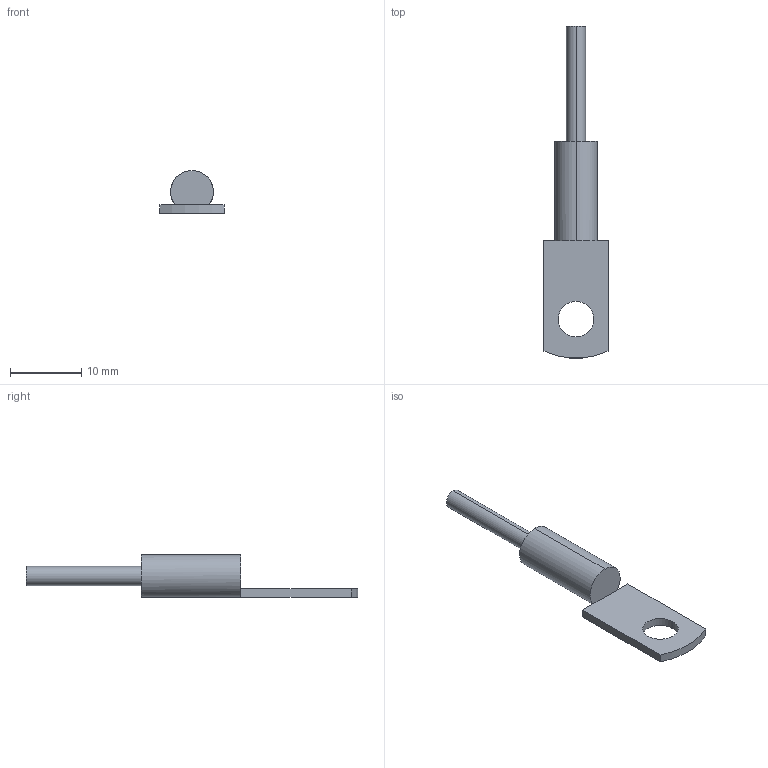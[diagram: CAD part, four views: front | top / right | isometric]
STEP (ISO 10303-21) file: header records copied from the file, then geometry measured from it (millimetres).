
FILE_DESCRIPTION (( 'STEP AP214' ), '1' );
FILE_NAME ('123456789.STEP', '2025-12-30T07:20:36', ( '' ), ( '' ), 'SwSTEP 2.0', 'SolidWorks 2025', '' );
FILE_SCHEMA (( 'AUTOMOTIVE_DESIGN' ));
Length unit declared in the file: millimetre
Products named in the file (1): 123456789
Bounding box: 9 x 46.66 x 6 mm (x, y, z)
Volume: 639.7 mm3; surface area: 779.7 mm2
Topology: 1 solids, 1 shells, 16 faces, 35 edges, 22 vertices
Faces by surface type: plane 9, cylinder 7
Entity records: 470 total; most frequent: DIRECTION 85, CARTESIAN_POINT 74, ORIENTED_EDGE 70, EDGE_CURVE 35, AXIS2_PLACEMENT_3D 33, VERTEX_POINT 22, EDGE_LOOP 19, VECTOR 19
